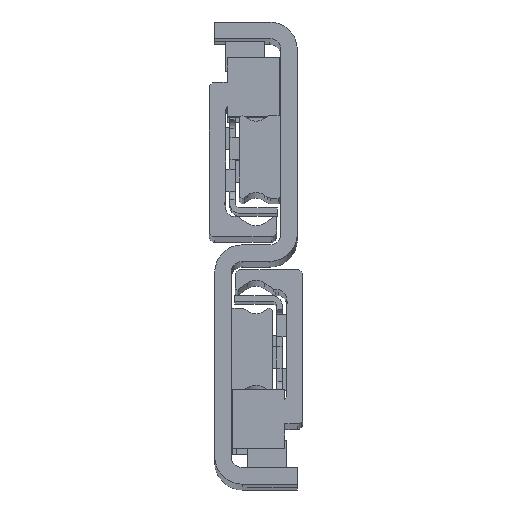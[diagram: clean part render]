
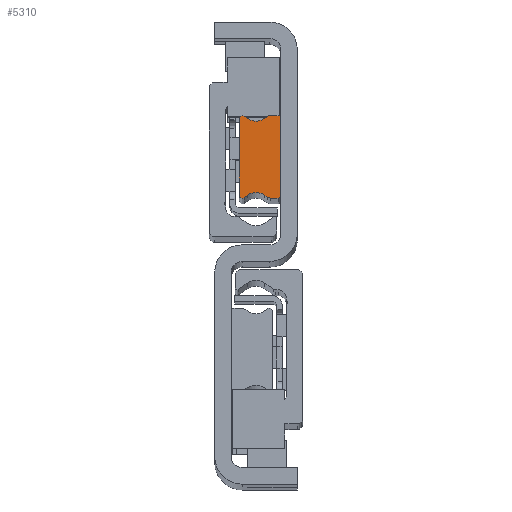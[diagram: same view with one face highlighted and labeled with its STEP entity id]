
A CAD part, top view. The second image highlights one B-rep face of the part: STEP entity #5310.
In plain terms, the highlighted planar face has unit normal (0, 0, 1) as drawn and (0, 0, -1) by its records, which use the part's own axes.
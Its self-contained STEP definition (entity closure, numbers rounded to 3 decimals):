
#89 = CARTESIAN_POINT ( 'NONE',  ( 6.677, -7.405, 0. ) ) ;
#342 = CARTESIAN_POINT ( 'NONE',  ( 4.5, 9.272, 0. ) ) ;
#611 = DIRECTION ( 'NONE',  ( -1., 0., 0. ) ) ;
#724 = VERTEX_POINT ( 'NONE', #5851 ) ;
#779 = LINE ( 'NONE', #6039, #5301 ) ;
#814 = DIRECTION ( 'NONE',  ( -1., 0., 0. ) ) ;
#1032 = CARTESIAN_POINT ( 'NONE',  ( 0.5, -7.5, 0. ) ) ;
#1097 = VERTEX_POINT ( 'NONE', #5534 ) ;
#1120 = CARTESIAN_POINT ( 'NONE',  ( 6.677, 7.405, 0. ) ) ;
#1241 = EDGE_CURVE ( 'NONE', #9434, #724, #779, .T. ) ;
#1296 = DIRECTION ( 'NONE',  ( 0., 0., 1. ) ) ;
#1617 = DIRECTION ( 'NONE',  ( -0.819, -0.574, 0. ) ) ;
#1672 = ORIENTED_EDGE ( 'NONE', *, *, #10703, .F. ) ;
#1682 = AXIS2_PLACEMENT_3D ( 'NONE', #9476, #2472, #2403 ) ;
#1754 = AXIS2_PLACEMENT_3D ( 'NONE', #7102, #3604, #8843 ) ;
#1835 = CARTESIAN_POINT ( 'NONE',  ( 7.5, -6.977, 0. ) ) ;
#1849 = DIRECTION ( 'NONE',  ( -1., 0., 0. ) ) ;
#1879 = CIRCLE ( 'NONE', #3668, 0.5 ) ;
#2036 = EDGE_CURVE ( 'NONE', #5363, #9434, #7222, .T. ) ;
#2116 = ORIENTED_EDGE ( 'NONE', *, *, #2876, .F. ) ;
#2168 = VECTOR ( 'NONE', #2702, 1000. ) ;
#2211 = AXIS2_PLACEMENT_3D ( 'NONE', #4208, #6887, #814 ) ;
#2403 = DIRECTION ( 'NONE',  ( -1., 0., 0. ) ) ;
#2472 = DIRECTION ( 'NONE',  ( 0., 0., 1. ) ) ;
#2611 = CARTESIAN_POINT ( 'NONE',  ( 6.977, -6.977, 0. ) ) ;
#2665 = EDGE_CURVE ( 'NONE', #8498, #8710, #7140, .T. ) ;
#2702 = DIRECTION ( 'NONE',  ( 0., 1., 0. ) ) ;
#2711 = CIRCLE ( 'NONE', #5681, 2.778 ) ;
#2787 = EDGE_CURVE ( 'NONE', #8741, #4774, #1879, .T. ) ;
#2841 = VECTOR ( 'NONE', #4425, 1000. ) ;
#2871 = DIRECTION ( 'NONE',  ( -1., 0., 0. ) ) ;
#2876 = EDGE_CURVE ( 'NONE', #7426, #8498, #7402, .T. ) ;
#2905 = CARTESIAN_POINT ( 'NONE',  ( 2.907, -6.997, 0. ) ) ;
#2965 = CIRCLE ( 'NONE', #1754, 2.778 ) ;
#3033 = CARTESIAN_POINT ( 'NONE',  ( 0.5, 7., 0. ) ) ;
#3115 = AXIS2_PLACEMENT_3D ( 'NONE', #6853, #7718, #9505 ) ;
#3254 = VECTOR ( 'NONE', #3932, 1000. ) ;
#3428 = PLANE ( 'NONE',  #2211 ) ;
#3441 = CIRCLE ( 'NONE', #8121, 0.5 ) ;
#3604 = DIRECTION ( 'NONE',  ( 0., 0., -1. ) ) ;
#3668 = AXIS2_PLACEMENT_3D ( 'NONE', #3033, #1296, #7471 ) ;
#3896 = DIRECTION ( 'NONE',  ( 0., 0., -1. ) ) ;
#3932 = DIRECTION ( 'NONE',  ( 0.819, -0.574, 0. ) ) ;
#3971 = CARTESIAN_POINT ( 'NONE',  ( 1.873, 7.5, 0. ) ) ;
#4187 = CARTESIAN_POINT ( 'NONE',  ( 0., -7., 0. ) ) ;
#4205 = VERTEX_POINT ( 'NONE', #7054 ) ;
#4208 = CARTESIAN_POINT ( 'NONE',  ( 6.977, 6.977, 0. ) ) ;
#4257 = DIRECTION ( 'NONE',  ( 0., 0., 1. ) ) ;
#4269 = EDGE_CURVE ( 'NONE', #9544, #8741, #8779, .T. ) ;
#4406 = ORIENTED_EDGE ( 'NONE', *, *, #7994, .F. ) ;
#4425 = DIRECTION ( 'NONE',  ( 0.819, 0.574, 0. ) ) ;
#4507 = DIRECTION ( 'NONE',  ( 0., 0., 1. ) ) ;
#4563 = CARTESIAN_POINT ( 'NONE',  ( 2.907, 6.997, 0. ) ) ;
#4774 = VERTEX_POINT ( 'NONE', #8888 ) ;
#4864 = CARTESIAN_POINT ( 'NONE',  ( 2.446, 7.319, 0. ) ) ;
#5106 = CARTESIAN_POINT ( 'NONE',  ( 1.873, -7.5, 0. ) ) ;
#5301 = VECTOR ( 'NONE', #1617, 1000. ) ;
#5310 = ADVANCED_FACE ( 'NONE', ( #8333 ), #3428, .T. ) ;
#5363 = VERTEX_POINT ( 'NONE', #6440 ) ;
#5405 = ORIENTED_EDGE ( 'NONE', *, *, #9253, .F. ) ;
#5425 = ORIENTED_EDGE ( 'NONE', *, *, #7176, .F. ) ;
#5534 = CARTESIAN_POINT ( 'NONE',  ( 6.093, -6.997, 0. ) ) ;
#5607 = EDGE_CURVE ( 'NONE', #10497, #10515, #8607, .T. ) ;
#5681 = AXIS2_PLACEMENT_3D ( 'NONE', #342, #3896, #10894 ) ;
#5794 = CARTESIAN_POINT ( 'NONE',  ( 6.677, -7.405, 0. ) ) ;
#5812 = ORIENTED_EDGE ( 'NONE', *, *, #7805, .F. ) ;
#5851 = CARTESIAN_POINT ( 'NONE',  ( 6.093, 6.997, 0. ) ) ;
#6039 = CARTESIAN_POINT ( 'NONE',  ( 6.093, 6.997, 0. ) ) ;
#6276 = ORIENTED_EDGE ( 'NONE', *, *, #4269, .F. ) ;
#6406 = DIRECTION ( 'NONE',  ( 0., 0., 1. ) ) ;
#6410 = VECTOR ( 'NONE', #6543, 1000. ) ;
#6440 = CARTESIAN_POINT ( 'NONE',  ( 7.5, 6.977, 0. ) ) ;
#6543 = DIRECTION ( 'NONE',  ( -1., 0., 0. ) ) ;
#6656 = CARTESIAN_POINT ( 'NONE',  ( 0.5, 7.5, 0. ) ) ;
#6686 = EDGE_CURVE ( 'NONE', #7567, #8813, #3441, .T. ) ;
#6765 = CARTESIAN_POINT ( 'NONE',  ( 0.5, -7., 0. ) ) ;
#6853 = CARTESIAN_POINT ( 'NONE',  ( 6.977, 6.977, 0. ) ) ;
#6887 = DIRECTION ( 'NONE',  ( 0., 0., -1. ) ) ;
#7020 = LINE ( 'NONE', #8009, #2168 ) ;
#7044 = ORIENTED_EDGE ( 'NONE', *, *, #2787, .F. ) ;
#7054 = CARTESIAN_POINT ( 'NONE',  ( 2.446, 7.319, 0. ) ) ;
#7102 = CARTESIAN_POINT ( 'NONE',  ( 4.5, -9.272, 0. ) ) ;
#7111 = ORIENTED_EDGE ( 'NONE', *, *, #9627, .F. ) ;
#7133 = CARTESIAN_POINT ( 'NONE',  ( 0.5, 7.5, 0. ) ) ;
#7140 = LINE ( 'NONE', #7793, #2841 ) ;
#7176 = EDGE_CURVE ( 'NONE', #4774, #7567, #7178, .T. ) ;
#7178 = LINE ( 'NONE', #4187, #8567 ) ;
#7222 = CIRCLE ( 'NONE', #3115, 0.523 ) ;
#7251 = AXIS2_PLACEMENT_3D ( 'NONE', #8185, #6406, #2871 ) ;
#7402 = CIRCLE ( 'NONE', #1682, 1. ) ;
#7403 = AXIS2_PLACEMENT_3D ( 'NONE', #2611, #4507, #1849 ) ;
#7426 = VERTEX_POINT ( 'NONE', #8987 ) ;
#7455 = ORIENTED_EDGE ( 'NONE', *, *, #1241, .F. ) ;
#7471 = DIRECTION ( 'NONE',  ( -1., 0., 0. ) ) ;
#7530 = VECTOR ( 'NONE', #8525, 1000. ) ;
#7567 = VERTEX_POINT ( 'NONE', #10007 ) ;
#7718 = DIRECTION ( 'NONE',  ( 0., 0., 1. ) ) ;
#7793 = CARTESIAN_POINT ( 'NONE',  ( 2.907, -6.997, 0. ) ) ;
#7805 = EDGE_CURVE ( 'NONE', #1097, #10497, #8829, .T. ) ;
#7994 = EDGE_CURVE ( 'NONE', #10515, #5363, #7020, .T. ) ;
#8009 = CARTESIAN_POINT ( 'NONE',  ( 7.5, 6.977, 0. ) ) ;
#8121 = AXIS2_PLACEMENT_3D ( 'NONE', #6765, #4257, #611 ) ;
#8185 = CARTESIAN_POINT ( 'NONE',  ( 1.873, 6.5, 0. ) ) ;
#8194 = EDGE_CURVE ( 'NONE', #10910, #4205, #11413, .T. ) ;
#8260 = DIRECTION ( 'NONE',  ( -0.819, 0.574, 0. ) ) ;
#8333 = FACE_OUTER_BOUND ( 'NONE', #9642, .T. ) ;
#8498 = VERTEX_POINT ( 'NONE', #10697 ) ;
#8525 = DIRECTION ( 'NONE',  ( 1., 0., 0. ) ) ;
#8546 = CIRCLE ( 'NONE', #7251, 1. ) ;
#8567 = VECTOR ( 'NONE', #10302, 1000. ) ;
#8607 = CIRCLE ( 'NONE', #7403, 0.523 ) ;
#8710 = VERTEX_POINT ( 'NONE', #2905 ) ;
#8741 = VERTEX_POINT ( 'NONE', #7133 ) ;
#8779 = LINE ( 'NONE', #6656, #6410 ) ;
#8813 = VERTEX_POINT ( 'NONE', #1032 ) ;
#8821 = VECTOR ( 'NONE', #8260, 1000. ) ;
#8829 = LINE ( 'NONE', #5794, #3254 ) ;
#8843 = DIRECTION ( 'NONE',  ( 1., 0., 0. ) ) ;
#8864 = EDGE_CURVE ( 'NONE', #4205, #9544, #8546, .T. ) ;
#8888 = CARTESIAN_POINT ( 'NONE',  ( 0., 7., 0. ) ) ;
#8987 = CARTESIAN_POINT ( 'NONE',  ( 1.873, -7.5, 0. ) ) ;
#9113 = ORIENTED_EDGE ( 'NONE', *, *, #6686, .F. ) ;
#9229 = ORIENTED_EDGE ( 'NONE', *, *, #2036, .F. ) ;
#9253 = EDGE_CURVE ( 'NONE', #8710, #1097, #2965, .T. ) ;
#9434 = VERTEX_POINT ( 'NONE', #1120 ) ;
#9476 = CARTESIAN_POINT ( 'NONE',  ( 1.873, -6.5, 0. ) ) ;
#9505 = DIRECTION ( 'NONE',  ( -1., 0., 0. ) ) ;
#9527 = ORIENTED_EDGE ( 'NONE', *, *, #2665, .F. ) ;
#9544 = VERTEX_POINT ( 'NONE', #3971 ) ;
#9627 = EDGE_CURVE ( 'NONE', #724, #10910, #2711, .T. ) ;
#9642 = EDGE_LOOP ( 'NONE', ( #9229, #4406, #10036, #5812, #5405, #9527, #2116, #1672, #9113, #5425, #7044, #6276, #10471, #9803, #7111, #7455 ) ) ;
#9803 = ORIENTED_EDGE ( 'NONE', *, *, #8194, .F. ) ;
#9880 = LINE ( 'NONE', #5106, #7530 ) ;
#10007 = CARTESIAN_POINT ( 'NONE',  ( 0., -7., 0. ) ) ;
#10036 = ORIENTED_EDGE ( 'NONE', *, *, #5607, .F. ) ;
#10302 = DIRECTION ( 'NONE',  ( 0., -1., 0. ) ) ;
#10471 = ORIENTED_EDGE ( 'NONE', *, *, #8864, .F. ) ;
#10497 = VERTEX_POINT ( 'NONE', #89 ) ;
#10515 = VERTEX_POINT ( 'NONE', #1835 ) ;
#10697 = CARTESIAN_POINT ( 'NONE',  ( 2.446, -7.319, 0. ) ) ;
#10703 = EDGE_CURVE ( 'NONE', #8813, #7426, #9880, .T. ) ;
#10894 = DIRECTION ( 'NONE',  ( 1., 0., 0. ) ) ;
#10910 = VERTEX_POINT ( 'NONE', #4563 ) ;
#11413 = LINE ( 'NONE', #4864, #8821 ) ;
